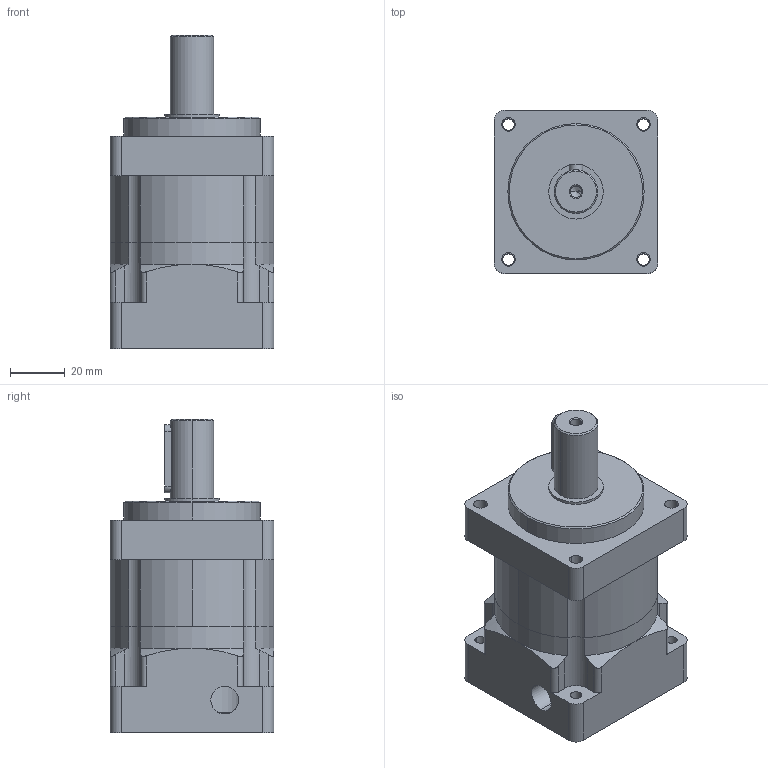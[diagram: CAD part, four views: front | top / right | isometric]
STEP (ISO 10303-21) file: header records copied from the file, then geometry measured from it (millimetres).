
FILE_DESCRIPTION (( 'STEP AP203' ), '1' );
FILE_NAME ('SL-060-005.STEP', '2010-05-19T15:40:09', ( 'render' ), ( '' ), 'SwSTEP 2.0', 'SolidWorks 2009', '' );
FILE_SCHEMA (( 'CONFIG_CONTROL_DESIGN' ));
Length unit declared in the file: millimetre
Products named in the file (1): SL-060-005
Bounding box: 60 x 60 x 115 mm (x, y, z)
Volume: 241472.7 mm3; surface area: 52342.4 mm2
Topology: 5 solids, 5 shells, 134 faces, 338 edges, 220 vertices
Faces by surface type: cylinder 76, plane 42, cone 8, sphere 8
Entity records: 4472 total; most frequent: CARTESIAN_POINT 1034, DIRECTION 745, ORIENTED_EDGE 672, EDGE_CURVE 336, AXIS2_PLACEMENT_3D 297, VERTEX_POINT 220, CIRCLE 162, EDGE_LOOP 162
